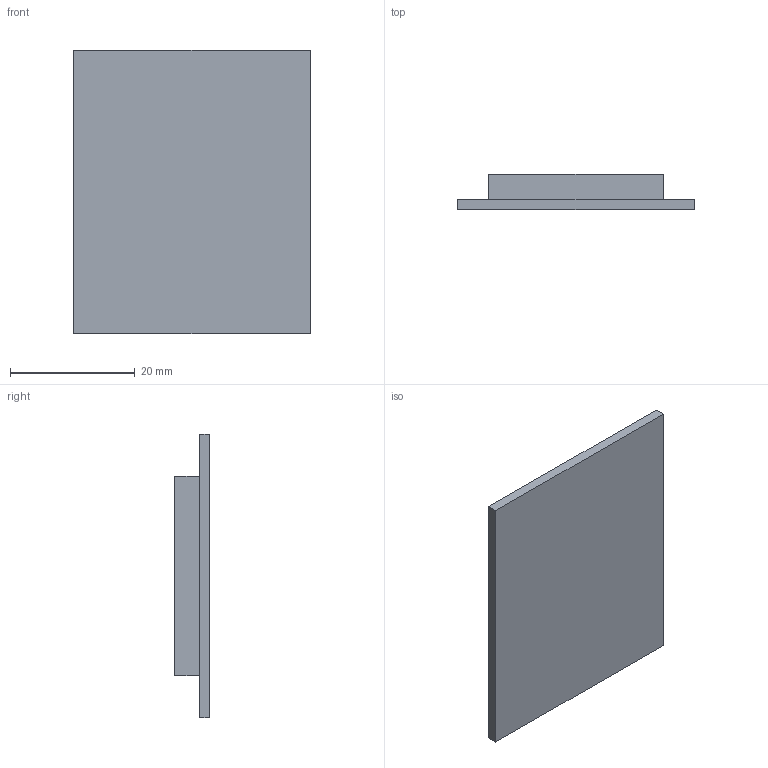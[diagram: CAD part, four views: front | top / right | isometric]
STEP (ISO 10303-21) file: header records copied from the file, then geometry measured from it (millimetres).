
FILE_DESCRIPTION(('Open CASCADE Model'),'2;1');
FILE_NAME('Open CASCADE Shape Model','2026-10-01T12:35:22',('Author'),( 'Open CASCADE'),'Open CASCADE STEP processor 7.8','Open CASCADE 7.8' ,'Unknown');
FILE_SCHEMA(('AUTOMOTIVE_DESIGN { 1 0 10303 214 1 1 1 1 }'));
Length unit declared in the file: millimetre
Products named in the file (2): E01_GC9A01_breakout_provisional; E01_GC9A01_breakout_provisional_solid
Assembly tree (1 placements, depth 2):
  E01_GC9A01_breakout_provisional
    E01_GC9A01_breakout_provisional_solid
Bounding box: 38 x 5.6 x 45.5 mm (x, y, z)
Volume: 6350.4 mm3; surface area: 4205.2 mm2
Topology: 1 solids, 1 shells, 11 faces, 24 edges, 16 vertices
Faces by surface type: plane 11
Entity records: 647 total; most frequent: CARTESIAN_POINT 101, DIRECTION 98, LINE 72, VECTOR 72, ORIENTED_EDGE 48, PCURVE 48, DEFINITIONAL_REPRESENTATION 48, EDGE_CURVE 24
